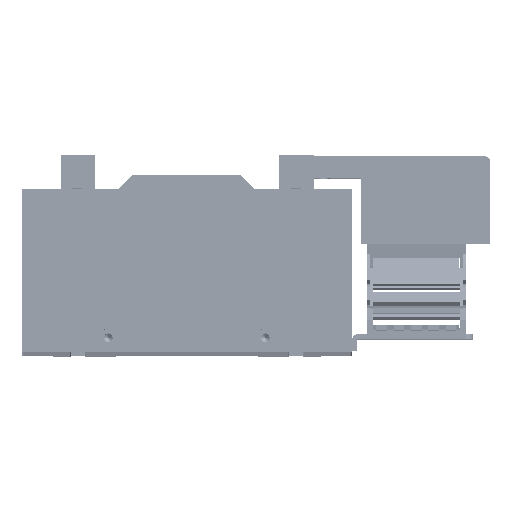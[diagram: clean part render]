
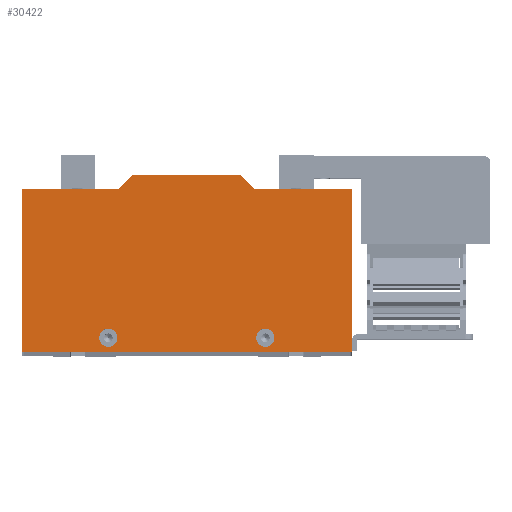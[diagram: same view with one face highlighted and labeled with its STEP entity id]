
A CAD part, top view. The second image highlights one B-rep face of the part: STEP entity #30422.
In plain terms, the highlighted planar face has unit normal (0, 0, 1) as drawn and (0, 0, -1) by its records, which use the part's own axes.
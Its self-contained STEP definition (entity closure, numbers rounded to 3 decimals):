
#19379 = DIRECTION ( 'NONE',  ( -1., 0., 0. ) ) ;
#19382 = DIRECTION ( 'NONE',  ( 0., 0., -1. ) ) ;
#19385 = CARTESIAN_POINT ( 'NONE',  ( -34.941, 76.299, 0. ) ) ;
#19386 = AXIS2_PLACEMENT_3D ( 'NONE', #19385, #19382, #19379 ) ;
#19388 = CIRCLE ( 'NONE', #19386, 5.25 ) ;
#19453 = DIRECTION ( 'NONE',  ( -1., 0., 0. ) ) ;
#19454 = DIRECTION ( 'NONE',  ( 0., 0., -1. ) ) ;
#19455 = AXIS2_PLACEMENT_3D ( 'NONE', #19462, #19454, #19453 ) ;
#19456 = CIRCLE ( 'NONE', #19455, 5.25 ) ;
#19462 = CARTESIAN_POINT ( 'NONE',  ( -125.441, 76.299, 0. ) ) ;
#19863 = DIRECTION ( 'NONE',  ( 1., 0., 0. ) ) ;
#19864 = DIRECTION ( 'NONE',  ( 0., 0., 1. ) ) ;
#19865 = CARTESIAN_POINT ( 'NONE',  ( -175.191, 84.299, 0. ) ) ;
#19867 = AXIS2_PLACEMENT_3D ( 'NONE', #19865, #19864, #19863 ) ;
#19869 = PLANE ( 'NONE',  #19867 ) ;
#19873 = FACE_OUTER_BOUND ( 'NONE', #29812, .T. ) ;
#19874 = FACE_BOUND ( 'NONE', #30305, .T. ) ;
#19876 = FACE_BOUND ( 'NONE', #30713, .T. ) ;
#20391 = CARTESIAN_POINT ( 'NONE',  ( -175.191, -9.701, 0. ) ) ;
#20653 = DIRECTION ( 'NONE',  ( 0., 1., 0. ) ) ;
#20654 = VECTOR ( 'NONE', #20653, 1000. ) ;
#20656 = CARTESIAN_POINT ( 'NONE',  ( -175.191, -17.701, 0. ) ) ;
#20665 = LINE ( 'NONE', #20656, #20654 ) ;
#20740 = CARTESIAN_POINT ( 'NONE',  ( -49.191, -17.701, 0. ) ) ;
#20906 = CARTESIAN_POINT ( 'NONE',  ( -111.191, -17.701, 0. ) ) ;
#29504 = VERTEX_POINT ( 'NONE', #80426 ) ;
#29561 = VERTEX_POINT ( 'NONE', #80750 ) ;
#29566 = EDGE_CURVE ( 'NONE', #29561, #29567, #80736, .T. ) ;
#29567 = VERTEX_POINT ( 'NONE', #80729 ) ;
#29700 = EDGE_CURVE ( 'NONE', #29703, #29504, #84410, .T. ) ;
#29703 = VERTEX_POINT ( 'NONE', #84401 ) ;
#29756 = VERTEX_POINT ( 'NONE', #84515 ) ;
#29767 = EDGE_CURVE ( 'NONE', #29756, #29907, #84554, .T. ) ;
#29810 = ORIENTED_EDGE ( 'NONE', *, *, #29700, .F. ) ;
#29812 = EDGE_LOOP ( 'NONE', ( #29815, #29816, #29825, #29835, #29840, #29851, #29861, #30015 ) ) ;
#29815 = ORIENTED_EDGE ( 'NONE', *, *, #29960, .T. ) ;
#29816 = ORIENTED_EDGE ( 'NONE', *, *, #29819, .F. ) ;
#29819 = EDGE_CURVE ( 'NONE', #29821, #30145, #85769, .T. ) ;
#29821 = VERTEX_POINT ( 'NONE', #85761 ) ;
#29825 = ORIENTED_EDGE ( 'NONE', *, *, #29827, .F. ) ;
#29827 = EDGE_CURVE ( 'NONE', #30625, #29821, #85756, .T. ) ;
#29835 = ORIENTED_EDGE ( 'NONE', *, *, #30120, .T. ) ;
#29840 = ORIENTED_EDGE ( 'NONE', *, *, #29844, .F. ) ;
#29844 = EDGE_CURVE ( 'NONE', #29848, #30659, #85970, .T. ) ;
#29848 = VERTEX_POINT ( 'NONE', #85949 ) ;
#29851 = ORIENTED_EDGE ( 'NONE', *, *, #29855, .F. ) ;
#29855 = EDGE_CURVE ( 'NONE', #30558, #29848, #85932, .T. ) ;
#29861 = ORIENTED_EDGE ( 'NONE', *, *, #30607, .T. ) ;
#29907 = VERTEX_POINT ( 'NONE', #86182 ) ;
#29960 = EDGE_CURVE ( 'NONE', #29567, #30145, #86211, .T. ) ;
#30015 = ORIENTED_EDGE ( 'NONE', *, *, #29566, .T. ) ;
#30120 = EDGE_CURVE ( 'NONE', #30625, #30659, #86864, .T. ) ;
#30145 = VERTEX_POINT ( 'NONE', #92484 ) ;
#30266 = EDGE_CURVE ( 'NONE', #29504, #29703, #19388, .T. ) ;
#30278 = ORIENTED_EDGE ( 'NONE', *, *, #30280, .F. ) ;
#30280 = EDGE_CURVE ( 'NONE', #29907, #29756, #19456, .T. ) ;
#30305 = EDGE_LOOP ( 'NONE', ( #30351, #29810 ) ) ;
#30351 = ORIENTED_EDGE ( 'NONE', *, *, #30266, .F. ) ;
#30422 = ADVANCED_FACE ( 'NONE', ( #19876, #19874, #19873 ), #19869, .F. ) ;
#30522 = ORIENTED_EDGE ( 'NONE', *, *, #29767, .F. ) ;
#30558 = VERTEX_POINT ( 'NONE', #20391 ) ;
#30607 = EDGE_CURVE ( 'NONE', #30558, #29561, #20665, .T. ) ;
#30625 = VERTEX_POINT ( 'NONE', #20740 ) ;
#30659 = VERTEX_POINT ( 'NONE', #20906 ) ;
#30713 = EDGE_LOOP ( 'NONE', ( #30278, #30522 ) ) ;
#80426 = CARTESIAN_POINT ( 'NONE',  ( -40.191, 76.299, 0. ) ) ;
#80729 = CARTESIAN_POINT ( 'NONE',  ( 14.809, 84.299, 0. ) ) ;
#80732 = DIRECTION ( 'NONE',  ( 1., 0., 0. ) ) ;
#80733 = VECTOR ( 'NONE', #80732, 1000. ) ;
#80734 = CARTESIAN_POINT ( 'NONE',  ( -175.191, 84.299, 0. ) ) ;
#80736 = LINE ( 'NONE', #80734, #80733 ) ;
#80750 = CARTESIAN_POINT ( 'NONE',  ( -175.191, 84.299, 0. ) ) ;
#84401 = CARTESIAN_POINT ( 'NONE',  ( -29.691, 76.299, 0. ) ) ;
#84407 = DIRECTION ( 'NONE',  ( -1., 0., 0. ) ) ;
#84408 = DIRECTION ( 'NONE',  ( 0., 0., -1. ) ) ;
#84409 = AXIS2_PLACEMENT_3D ( 'NONE', #84415, #84408, #84407 ) ;
#84410 = CIRCLE ( 'NONE', #84409, 5.25 ) ;
#84415 = CARTESIAN_POINT ( 'NONE',  ( -34.941, 76.299, 0. ) ) ;
#84515 = CARTESIAN_POINT ( 'NONE',  ( -120.191, 76.299, 0. ) ) ;
#84551 = DIRECTION ( 'NONE',  ( -1., 0., 0. ) ) ;
#84552 = DIRECTION ( 'NONE',  ( 0., 0., -1. ) ) ;
#84553 = AXIS2_PLACEMENT_3D ( 'NONE', #84560, #84552, #84551 ) ;
#84554 = CIRCLE ( 'NONE', #84553, 5.25 ) ;
#84560 = CARTESIAN_POINT ( 'NONE',  ( -125.441, 76.299, 0. ) ) ;
#85753 = DIRECTION ( 'NONE',  ( 0.707, 0.707, 0. ) ) ;
#85754 = VECTOR ( 'NONE', #85753, 1000. ) ;
#85755 = CARTESIAN_POINT ( 'NONE',  ( -41.191, -9.701, 0. ) ) ;
#85756 = LINE ( 'NONE', #85755, #85754 ) ;
#85761 = CARTESIAN_POINT ( 'NONE',  ( -41.191, -9.701, 0. ) ) ;
#85765 = DIRECTION ( 'NONE',  ( 1., 0., 0. ) ) ;
#85766 = VECTOR ( 'NONE', #85765, 1000. ) ;
#85768 = CARTESIAN_POINT ( 'NONE',  ( 14.809, -9.701, 0. ) ) ;
#85769 = LINE ( 'NONE', #85768, #85766 ) ;
#85927 = DIRECTION ( 'NONE',  ( 1., 0., 0. ) ) ;
#85928 = VECTOR ( 'NONE', #85927, 1000. ) ;
#85930 = CARTESIAN_POINT ( 'NONE',  ( -119.191, -9.701, 0. ) ) ;
#85932 = LINE ( 'NONE', #85930, #85928 ) ;
#85949 = CARTESIAN_POINT ( 'NONE',  ( -119.191, -9.701, 0. ) ) ;
#85965 = DIRECTION ( 'NONE',  ( 0.707, -0.707, 0. ) ) ;
#85967 = VECTOR ( 'NONE', #85965, 1000. ) ;
#85969 = CARTESIAN_POINT ( 'NONE',  ( -111.191, -17.701, 0. ) ) ;
#85970 = LINE ( 'NONE', #85969, #85967 ) ;
#86182 = CARTESIAN_POINT ( 'NONE',  ( -130.691, 76.299, 0. ) ) ;
#86205 = DIRECTION ( 'NONE',  ( 0., -1., 0. ) ) ;
#86206 = VECTOR ( 'NONE', #86205, 1000. ) ;
#86208 = CARTESIAN_POINT ( 'NONE',  ( 14.809, 84.299, 0. ) ) ;
#86211 = LINE ( 'NONE', #86208, #86206 ) ;
#86857 = DIRECTION ( 'NONE',  ( -1., 0., 0. ) ) ;
#86860 = VECTOR ( 'NONE', #86857, 1000. ) ;
#86863 = CARTESIAN_POINT ( 'NONE',  ( 14.809, -17.701, 0. ) ) ;
#86864 = LINE ( 'NONE', #86863, #86860 ) ;
#92484 = CARTESIAN_POINT ( 'NONE',  ( 14.809, -9.701, 0. ) ) ;
